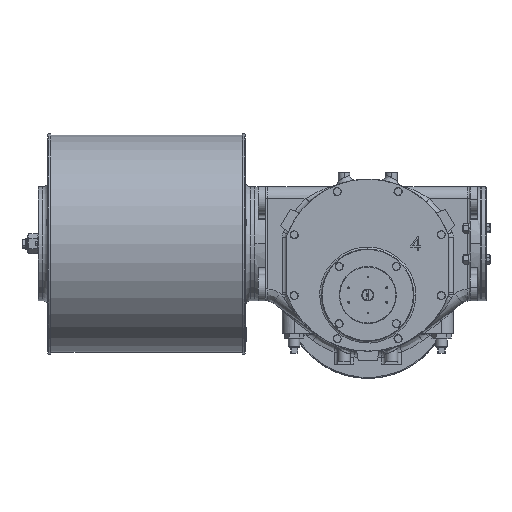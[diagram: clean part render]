
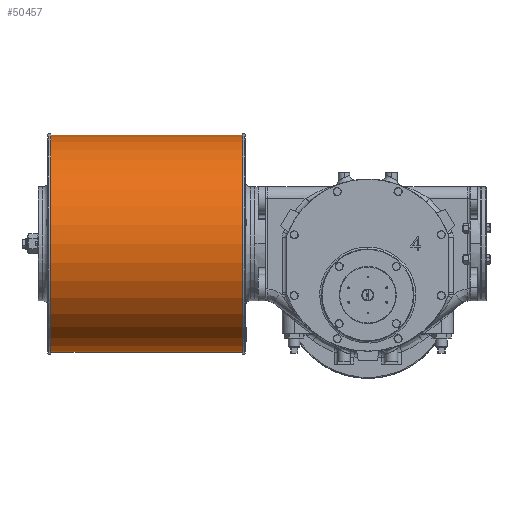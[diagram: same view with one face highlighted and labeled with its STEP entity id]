
A CAD part, top view. The second image highlights one B-rep face of the part: STEP entity #50457.
In plain terms, the highlighted cylindrical face has radius 228.6 mm (diameter 457.2 mm), a partial arc.
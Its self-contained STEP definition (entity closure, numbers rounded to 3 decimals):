
#3346 = DIRECTION ( 'NONE',  ( 1., 0., 0. ) ) ;
#4218 = CARTESIAN_POINT ( 'NONE',  ( -1313.078, 336.6, 82.5 ) ) ;
#5037 = CARTESIAN_POINT ( 'NONE',  ( -666.5, 336.6, 82.5 ) ) ;
#7586 = CIRCLE ( 'NONE', #42088, 228.6 ) ;
#8213 = CARTESIAN_POINT ( 'NONE',  ( -264.5, -120.6, 82.5 ) ) ;
#8437 = CARTESIAN_POINT ( 'NONE',  ( -1313.078, 108., 82.5 ) ) ;
#8483 = EDGE_CURVE ( 'NONE', #9618, #57995, #13717, .T. ) ;
#9618 = VERTEX_POINT ( 'NONE', #58847 ) ;
#11062 = EDGE_LOOP ( 'NONE', ( #51800, #20040, #36994, #47626 ) ) ;
#12005 = CARTESIAN_POINT ( 'NONE',  ( -264.5, 108., 82.5 ) ) ;
#13218 = DIRECTION ( 'NONE',  ( 1., 0., 0. ) ) ;
#13284 = EDGE_CURVE ( 'NONE', #56377, #54239, #54668, .T. ) ;
#13717 = LINE ( 'NONE', #50338, #48725 ) ;
#16188 = CARTESIAN_POINT ( 'NONE',  ( -264.5, 336.6, 82.5 ) ) ;
#20040 = ORIENTED_EDGE ( 'NONE', *, *, #8483, .T. ) ;
#21388 = DIRECTION ( 'NONE',  ( 0., 1., 0. ) ) ;
#26918 = CIRCLE ( 'NONE', #53776, 228.6 ) ;
#30443 = CARTESIAN_POINT ( 'NONE',  ( -666.5, 108., 82.5 ) ) ;
#32101 = EDGE_CURVE ( 'NONE', #9618, #56377, #7586, .T. ) ;
#35247 = DIRECTION ( 'NONE',  ( -1., 0., 0. ) ) ;
#35774 = CYLINDRICAL_SURFACE ( 'NONE', #40187, 228.6 ) ;
#36994 = ORIENTED_EDGE ( 'NONE', *, *, #58868, .T. ) ;
#37804 = DIRECTION ( 'NONE',  ( 0., 0., 1. ) ) ;
#40187 = AXIS2_PLACEMENT_3D ( 'NONE', #8437, #3346, #21388 ) ;
#41355 = DIRECTION ( 'NONE',  ( 1., 0., 0. ) ) ;
#42088 = AXIS2_PLACEMENT_3D ( 'NONE', #30443, #35247, #37804 ) ;
#43266 = DIRECTION ( 'NONE',  ( -1., 0., 0. ) ) ;
#44453 = DIRECTION ( 'NONE',  ( 0., 1., 0. ) ) ;
#44716 = VECTOR ( 'NONE', #13218, 1000. ) ;
#47626 = ORIENTED_EDGE ( 'NONE', *, *, #13284, .F. ) ;
#48725 = VECTOR ( 'NONE', #41355, 1000. ) ;
#50338 = CARTESIAN_POINT ( 'NONE',  ( -1313.078, -120.6, 82.5 ) ) ;
#50457 = ADVANCED_FACE ( 'NONE', ( #53500 ), #35774, .T. ) ;
#51800 = ORIENTED_EDGE ( 'NONE', *, *, #32101, .F. ) ;
#53500 = FACE_OUTER_BOUND ( 'NONE', #11062, .T. ) ;
#53776 = AXIS2_PLACEMENT_3D ( 'NONE', #12005, #43266, #44453 ) ;
#54239 = VERTEX_POINT ( 'NONE', #16188 ) ;
#54668 = LINE ( 'NONE', #4218, #44716 ) ;
#56377 = VERTEX_POINT ( 'NONE', #5037 ) ;
#57995 = VERTEX_POINT ( 'NONE', #8213 ) ;
#58847 = CARTESIAN_POINT ( 'NONE',  ( -666.5, -120.6, 82.5 ) ) ;
#58868 = EDGE_CURVE ( 'NONE', #57995, #54239, #26918, .T. ) ;
